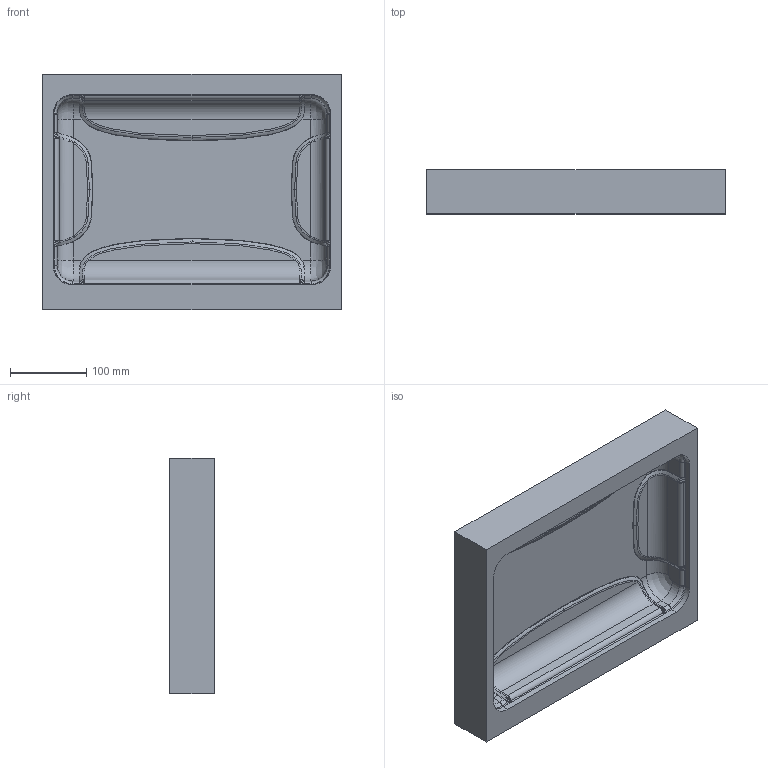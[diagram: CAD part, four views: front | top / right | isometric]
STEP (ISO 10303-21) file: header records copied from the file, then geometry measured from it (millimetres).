
FILE_DESCRIPTION (( 'STEP AP203' ), '1' );
FILE_NAME ('NANUK_915 Top.STEP', '2012-01-23T22:14:42', ( 'Ben laptop' ), ( 'Microsoft' ), 'SwSTEP 2.0', 'SolidWorks 2011', '' );
FILE_SCHEMA (( 'CONFIG_CONTROL_DESIGN' ));
Length unit declared in the file: inch
Products named in the file (1): NANUK_915 Top
Bounding box: 390.4 x 57.84 x 308.08 mm (x, y, z)
Volume: 2713488.7 mm3; surface area: 365476.9 mm2
Topology: 1 solids, 1 shells, 247 faces, 580 edges, 336 vertices
Faces by surface type: bspline 160, cylinder 40, plane 27, torus 8, sphere 8, cone 4
Entity records: 24163 total; most frequent: CARTESIAN_POINT 19498, ORIENTED_EDGE 1160, DIRECTION 700, EDGE_CURVE 580, VERTEX_POINT 336, AXIS2_PLACEMENT_3D 304, B_SPLINE_CURVE_WITH_KNOTS 264, EDGE_LOOP 248
